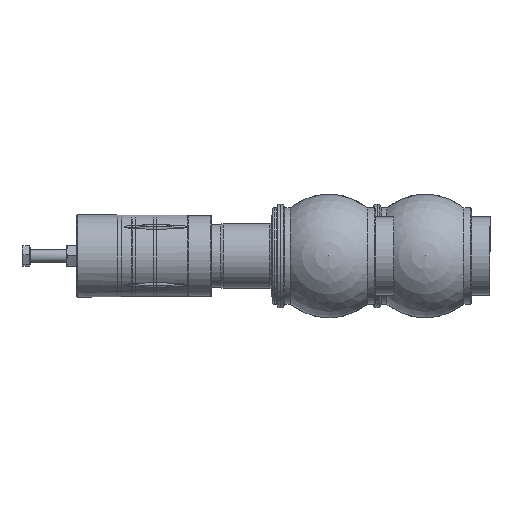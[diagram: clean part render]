
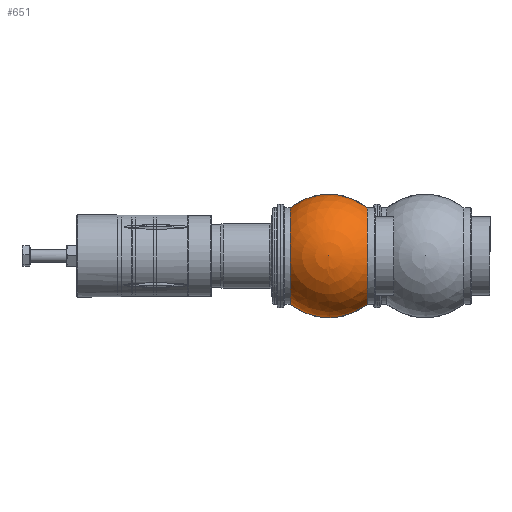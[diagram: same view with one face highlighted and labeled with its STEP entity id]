
A CAD part, left-side view. The second image highlights one B-rep face of the part: STEP entity #651.
In plain terms, the highlighted spherical face has radius 67.25 mm.
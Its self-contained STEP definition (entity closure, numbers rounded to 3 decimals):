
#465=CARTESIAN_POINT('',(6.32,28.472,52.118));
#466=VERTEX_POINT('',#465);
#467=CARTESIAN_POINT('',(-6.32,28.472,52.118));
#468=VERTEX_POINT('',#467);
#478=CARTESIAN_POINT('',(6.32,112.528,52.118));
#479=VERTEX_POINT('',#478);
#480=CARTESIAN_POINT('',(0.0,70.5,52.118));
#481=DIRECTION('',(0.0,0.0,-1.0));
#482=DIRECTION('',(-1.0,0.0,0.0));
#483=AXIS2_PLACEMENT_3D('',#480,#481,#482);
#484=CIRCLE('',#483,42.5);
#485=EDGE_CURVE('',#479,#466,#484,.T.);
#487=CARTESIAN_POINT('',(-6.32,112.528,52.118));
#488=VERTEX_POINT('',#487);
#498=CARTESIAN_POINT('',(0.0,70.5,52.118));
#499=DIRECTION('',(0.0,0.0,-1.0));
#500=DIRECTION('',(-1.0,0.0,0.0));
#501=AXIS2_PLACEMENT_3D('',#498,#499,#500);
#502=CIRCLE('',#501,42.5);
#503=EDGE_CURVE('',#468,#488,#502,.T.);
#523=CARTESIAN_POINT('',(0.0,112.528,0.0));
#524=DIRECTION('',(0.0,1.0,0.0));
#525=DIRECTION('',(1.0,0.0,0.0));
#526=AXIS2_PLACEMENT_3D('',#523,#524,#525);
#527=CIRCLE('',#526,52.5);
#528=EDGE_CURVE('',#479,#488,#527,.T.);
#627=CARTESIAN_POINT('',(0.0,28.472,0.0));
#628=DIRECTION('',(0.0,1.0,0.0));
#629=DIRECTION('',(1.0,0.0,0.0));
#630=AXIS2_PLACEMENT_3D('',#627,#628,#629);
#631=CIRCLE('',#630,52.5);
#632=EDGE_CURVE('',#466,#468,#631,.T.);
#640=CARTESIAN_POINT('',(0.0,70.5,0.0));
#641=DIRECTION('',(0.0,0.0,1.0));
#642=DIRECTION('',(1.0,0.0,0.0));
#643=AXIS2_PLACEMENT_3D('',#640,#641,#642);
#644=SPHERICAL_SURFACE('',#643,67.25);
#645=ORIENTED_EDGE('',*,*,#503,.T.);
#646=ORIENTED_EDGE('',*,*,#528,.F.);
#647=ORIENTED_EDGE('',*,*,#485,.T.);
#648=ORIENTED_EDGE('',*,*,#632,.T.);
#649=EDGE_LOOP('',(#645,#646,#647,#648));
#650=FACE_OUTER_BOUND('',#649,.T.);
#651=ADVANCED_FACE('',(#650),#644,.T.);
